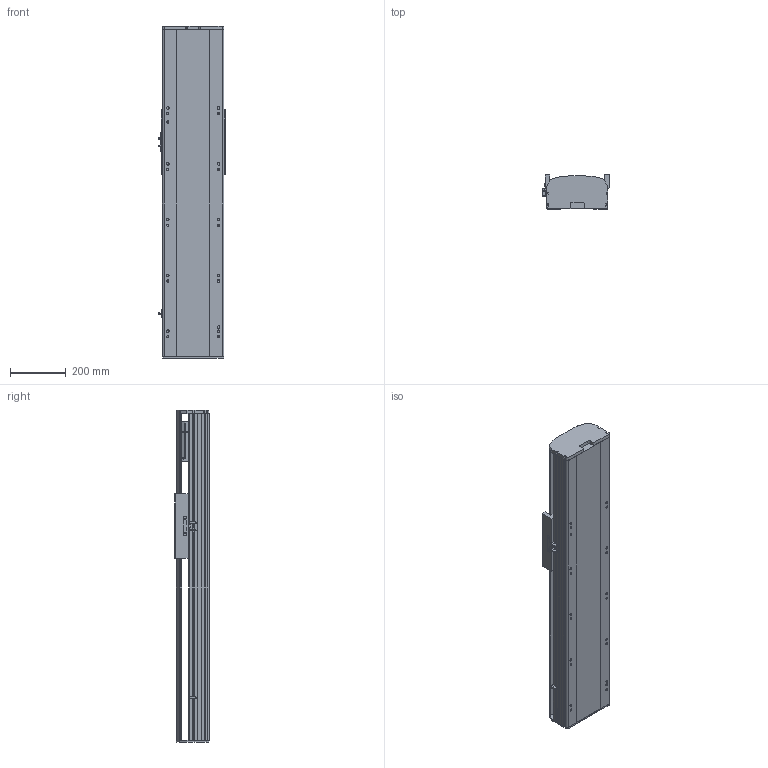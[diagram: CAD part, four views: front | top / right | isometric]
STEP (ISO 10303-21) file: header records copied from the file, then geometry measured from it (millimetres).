
FILE_DESCRIPTION (( 'STEP AP214' ), '1' );
FILE_NAME ('RTH22-XX-600-B-M75-C4.STEP', '2025-10-24T10:29:32', ( 'Microsoft' ), ( 'Microsoft' ), 'SwSTEP 2.0', 'SolidWorks 2018', '' );
FILE_SCHEMA (( 'AUTOMOTIVE_DESIGN' ));
Length unit declared in the file: millimetre
Products named in the file (9): RTH22-XX-600-B-M75-C4; N_RTH22-B-007奻裔^RTH22-XX-XX-B-M75-C4; N_RTH22-E-004-SFS25賑釱^RTH22-XX-XX-B-M75-C4; N_750W萇儂^RTH22-XX-XX-B-M75-C4; N_RTH22-GY-013外置感应片^RTH22-XX-XX-B-M75-C4; N_OMRON EE-SX672 传感器^RTH22-XX-XX-B-M75-C4; N_RTH22-GY-001耜裔^RTH22-XX-XX-B-M75-C4; N_RTH22-B-008萇儂啣^RTH22-XX-XX-B-M75-C4; N_RTH22-B-011菁釱^RTH22-XX-XX-B-M75-C4
Assembly tree (10 placements, depth 2):
  RTH22-XX-600-B-M75-C4
    N_RTH22-B-011菁釱^RTH22-XX-XX-B-M75-C4
    N_RTH22-GY-001耜裔^RTH22-XX-XX-B-M75-C4
    N_750W萇儂^RTH22-XX-XX-B-M75-C4
    N_RTH22-B-008萇儂啣^RTH22-XX-XX-B-M75-C4
    N_RTH22-B-007奻裔^RTH22-XX-XX-B-M75-C4
    N_OMRON EE-SX672 传感器^RTH22-XX-XX-B-M75-C4  x3
    N_RTH22-GY-013外置感应片^RTH22-XX-XX-B-M75-C4
    N_RTH22-E-004-SFS25賑釱^RTH22-XX-XX-B-M75-C4
Bounding box: 238.5 x 122 x 1190 mm (x, y, z)
Volume: 16814484.3 mm3; surface area: 1749542.8 mm2
Topology: 10 solids, 10 shells, 1497 faces, 4100 edges, 2653 vertices
Faces by surface type: plane 750, cylinder 418, bspline 279, cone 50
Entity records: 36775 total; most frequent: CARTESIAN_POINT 11549, ORIENTED_EDGE 5192, DIRECTION 4834, EDGE_CURVE 2596, VERTEX_POINT 1689, LINE 1614, VECTOR 1614, AXIS2_PLACEMENT_3D 1610
